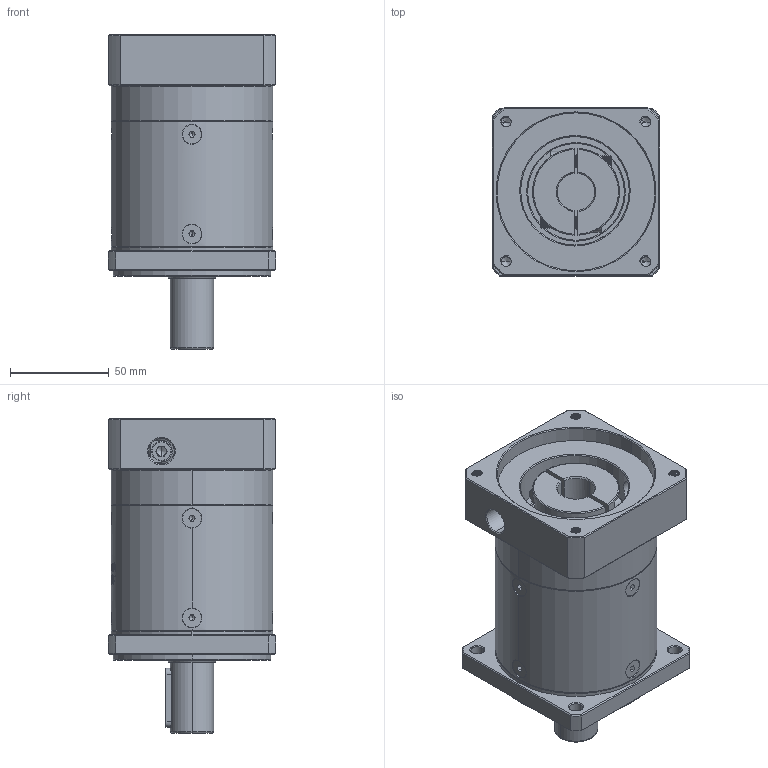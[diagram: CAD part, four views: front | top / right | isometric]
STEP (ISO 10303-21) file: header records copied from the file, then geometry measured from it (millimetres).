
FILE_DESCRIPTION (( 'STEP AP214' ), '1' );
FILE_NAME ('ZF080-D22-L2-P2-19-80-100-M6.step', '2023-08-19T05:32:49', ( '' ), ( '' ), 'SwSTEP 2.0', 'SolidWorks 2016', '' );
FILE_SCHEMA (( 'AUTOMOTIVE_DESIGN' ));
Length unit declared in the file: millimetre
Products named in the file (1): ZF080-D22-L2-P2-19-80-100-M6
Bounding box: 85 x 85 x 159.5 mm (x, y, z)
Volume: 640156.8 mm3; surface area: 93996.6 mm2
Topology: 13 solids, 13 shells, 2231 faces, 5834 edges, 3702 vertices
Faces by surface type: plane 1071, bspline 394, cylinder 390, cone 339, torus 37
Entity records: 119071 total; most frequent: CARTESIAN_POINT 44744, ORIENTED_EDGE 11608, DIRECTION 8608, EDGE_CURVE 5804, VERTEX_POINT 3702, VECTOR 3088, LINE 3088, AXIS2_PLACEMENT_3D 2760
